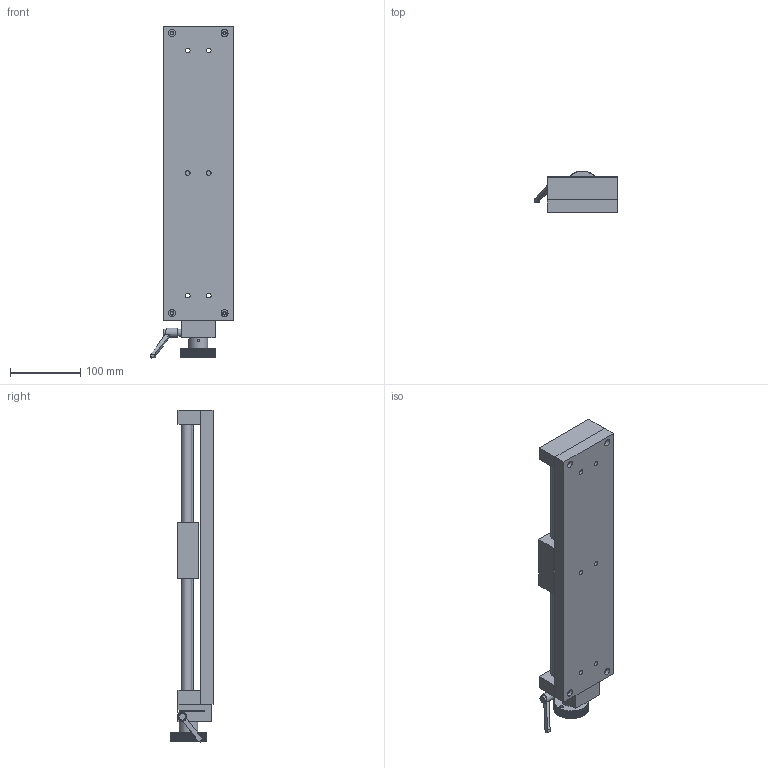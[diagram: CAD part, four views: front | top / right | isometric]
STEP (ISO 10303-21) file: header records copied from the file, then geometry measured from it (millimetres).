
FILE_DESCRIPTION (( 'STEP AP203' ), '1' );
FILE_NAME ('BKST300.STEP', '2024-07-29T13:43:32', ( 'Windows User' ), ( 'P R C' ), 'SwSTEP 2.0', 'SolidWorks 2024', '' );
FILE_SCHEMA (( 'CONFIG_CONTROL_DESIGN' ));
Length unit declared in the file: millimetre
Products named in the file (1): BKST300
Bounding box: 117.86 x 60 x 474.09 mm (x, y, z)
Volume: 1332370.3 mm3; surface area: 268130.7 mm2
Topology: 16 solids, 16 shells, 522 faces, 1532 edges, 1014 vertices
Faces by surface type: plane 251, cylinder 174, torus 56, sphere 24, cone 16, bspline 1
Full cylindrical faces by diameter (mm): 3.3 x10, 4.2 x7, 5 x8, 5.2 x1, 5.5 x6, 6.6 x6, 9 x4, 9.05 x2, 9.1 x1, 10 x6, 10.5 x2, 11 x8, 13 x1, 14 x5, 15 x8, 18.1 x3, 19 x4, 21 x1, 21.1 x1, 24 x4, 26.5 x1
Entity records: 19168 total; most frequent: CARTESIAN_POINT 6237, ORIENTED_EDGE 2598, DIRECTION 2554, EDGE_CURVE 1299, AXIS2_PLACEMENT_3D 954, VERTEX_POINT 925, EDGE_LOOP 756, VECTOR 646
